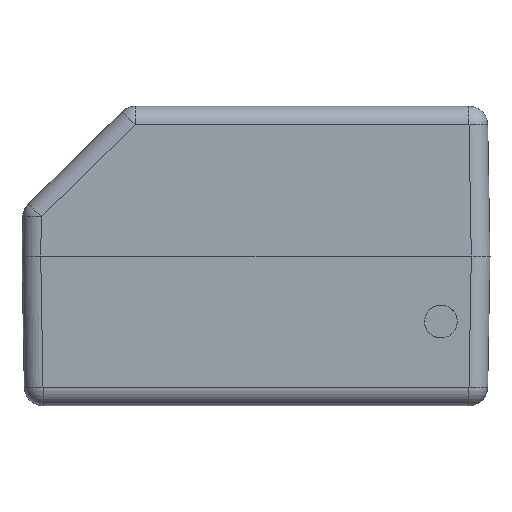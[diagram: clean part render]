
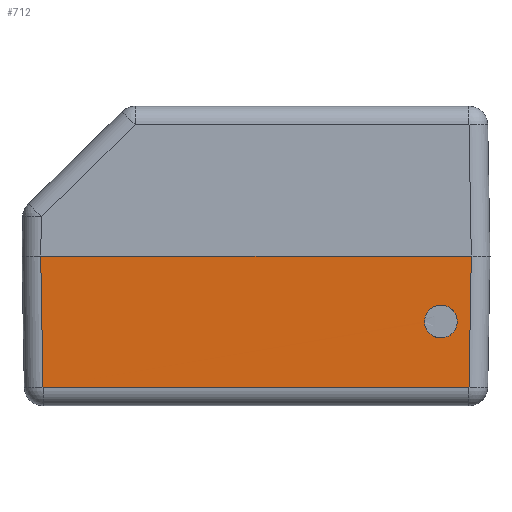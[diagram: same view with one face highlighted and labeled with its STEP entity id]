
A CAD part, front view. The second image highlights one B-rep face of the part: STEP entity #712.
In plain terms, the highlighted planar face has unit normal (0, -1, -0.018).
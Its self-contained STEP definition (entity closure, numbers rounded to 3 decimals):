
#483=FACE_BOUND('',#1008,.T.);
#484=FACE_BOUND('',#1009,.T.);
#712=ADVANCED_FACE('',(#483,#484),#829,.T.);
#829=PLANE('',#2377);
#1008=EDGE_LOOP('',(#1258,#1259,#1260,#1261));
#1009=EDGE_LOOP('',(#1262,#1263,#1264,#1265));
#1258=ORIENTED_EDGE('',*,*,#1912,.F.);
#1259=ORIENTED_EDGE('',*,*,#1878,.T.);
#1260=ORIENTED_EDGE('',*,*,#1911,.T.);
#1261=ORIENTED_EDGE('',*,*,#1913,.T.);
#1262=ORIENTED_EDGE('',*,*,#1882,.T.);
#1263=ORIENTED_EDGE('',*,*,#1881,.T.);
#1264=ORIENTED_EDGE('',*,*,#1880,.T.);
#1265=ORIENTED_EDGE('',*,*,#1883,.T.);
#1707=VERTEX_POINT('',#3233);
#1708=VERTEX_POINT('',#3240);
#1709=VERTEX_POINT('',#3251);
#1710=VERTEX_POINT('',#3252);
#1711=VERTEX_POINT('',#3261);
#1712=VERTEX_POINT('',#3270);
#1727=VERTEX_POINT('',#3408);
#1728=VERTEX_POINT('',#3418);
#1878=EDGE_CURVE('',#1708,#1707,#2133,.T.);
#1880=EDGE_CURVE('',#1709,#1710,#2134,.T.);
#1881=EDGE_CURVE('',#1711,#1709,#2135,.T.);
#1882=EDGE_CURVE('',#1712,#1711,#2136,.T.);
#1883=EDGE_CURVE('',#1710,#1712,#2137,.T.);
#1911=EDGE_CURVE('',#1707,#1727,#2155,.T.);
#1912=EDGE_CURVE('',#1708,#1728,#2156,.T.);
#1913=EDGE_CURVE('',#1727,#1728,#2157,.T.);
#2133=B_SPLINE_CURVE_WITH_KNOTS('',3,(#3236,#3237,#3238,#3239),
 .UNSPECIFIED.,.F.,.F.,(4,4),(0.,1.),.UNSPECIFIED.);
#2134=B_SPLINE_CURVE_WITH_KNOTS('',3,(#3243,#3244,#3245,#3246,#3247,#3248,
#3249,#3250),.UNSPECIFIED.,.F.,.F.,(4,2,2,4),(0.,0.5,0.75,
1.),.UNSPECIFIED.);
#2135=B_SPLINE_CURVE_WITH_KNOTS('',3,(#3253,#3254,#3255,#3256,#3257,#3258,
#3259,#3260),.UNSPECIFIED.,.F.,.F.,(4,2,2,4),(0.,0.25,0.5,
1.),.UNSPECIFIED.);
#2136=B_SPLINE_CURVE_WITH_KNOTS('',3,(#3262,#3263,#3264,#3265,#3266,#3267,
#3268,#3269),.UNSPECIFIED.,.F.,.F.,(4,2,2,4),(0.,0.5,0.75,
1.),.UNSPECIFIED.);
#2137=B_SPLINE_CURVE_WITH_KNOTS('',3,(#3271,#3272,#3273,#3274,#3275,#3276,
#3277,#3278,#3279,#3280,#3281),.UNSPECIFIED.,.F.,.F.,(4,2,1,2,2,4),(0.,
0.062,0.125,0.25,0.5,1.),
 .UNSPECIFIED.);
#2155=B_SPLINE_CURVE_WITH_KNOTS('',3,(#3409,#3410,#3411,#3412),
 .UNSPECIFIED.,.F.,.F.,(4,4),(0.,1.),.UNSPECIFIED.);
#2156=B_SPLINE_CURVE_WITH_KNOTS('',3,(#3414,#3415,#3416,#3417),
 .UNSPECIFIED.,.F.,.F.,(4,4),(0.,1.),.UNSPECIFIED.);
#2157=B_SPLINE_CURVE_WITH_KNOTS('',3,(#3419,#3420,#3421,#3422),
 .UNSPECIFIED.,.F.,.F.,(4,4),(0.,1.),.UNSPECIFIED.);
#2377=AXIS2_PLACEMENT_3D('',#3423,#2621,#2622);
#2621=DIRECTION('',(0.,-1.,-0.017));
#2622=DIRECTION('',(-1.,0.,0.));
#3233=CARTESIAN_POINT('',(22.755,-18.755,-16.035));
#3236=CARTESIAN_POINT('',(-22.755,-18.755,-16.035));
#3237=CARTESIAN_POINT('',(-7.585,-18.755,-16.035));
#3238=CARTESIAN_POINT('',(7.585,-18.755,-16.035));
#3239=CARTESIAN_POINT('',(22.755,-18.755,-16.035));
#3240=CARTESIAN_POINT('',(-22.755,-18.755,-16.035));
#3243=CARTESIAN_POINT('',(19.75,-18.847,-10.75));
#3244=CARTESIAN_POINT('',(19.304,-18.847,-10.75));
#3245=CARTESIAN_POINT('',(18.917,-18.85,-10.603));
#3246=CARTESIAN_POINT('',(18.424,-18.858,-10.162));
#3247=CARTESIAN_POINT('',(18.224,-18.862,-9.904));
#3248=CARTESIAN_POINT('',(18.018,-18.871,-9.378));
#3249=CARTESIAN_POINT('',(17.996,-18.874,-9.195));
#3250=CARTESIAN_POINT('',(18.,-18.878,-8.974));
#3251=CARTESIAN_POINT('',(19.752,-18.847,-10.75));
#3252=CARTESIAN_POINT('',(18.,-18.879,-8.975));
#3253=CARTESIAN_POINT('',(21.5,-18.878,-8.977));
#3254=CARTESIAN_POINT('',(21.504,-18.874,-9.222));
#3255=CARTESIAN_POINT('',(21.456,-18.87,-9.468));
#3256=CARTESIAN_POINT('',(21.245,-18.861,-9.949));
#3257=CARTESIAN_POINT('',(21.06,-18.857,-10.178));
#3258=CARTESIAN_POINT('',(20.575,-18.85,-10.606));
#3259=CARTESIAN_POINT('',(20.194,-18.847,-10.749));
#3260=CARTESIAN_POINT('',(19.753,-18.847,-10.75));
#3261=CARTESIAN_POINT('',(21.5,-18.878,-8.977));
#3262=CARTESIAN_POINT('',(19.718,-18.908,-7.249));
#3263=CARTESIAN_POINT('',(20.15,-18.909,-7.24));
#3264=CARTESIAN_POINT('',(20.56,-18.906,-7.398));
#3265=CARTESIAN_POINT('',(21.016,-18.899,-7.776));
#3266=CARTESIAN_POINT('',(21.186,-18.896,-7.968));
#3267=CARTESIAN_POINT('',(21.413,-18.888,-8.398));
#3268=CARTESIAN_POINT('',(21.495,-18.885,-8.606));
#3269=CARTESIAN_POINT('',(21.5,-18.878,-8.977));
#3270=CARTESIAN_POINT('',(19.718,-18.908,-7.25));
#3271=CARTESIAN_POINT('',(18.,-18.878,-8.974));
#3272=CARTESIAN_POINT('',(18.002,-18.881,-8.837));
#3273=CARTESIAN_POINT('',(18.011,-18.881,-8.789));
#3274=CARTESIAN_POINT('',(18.029,-18.884,-8.67));
#3275=CARTESIAN_POINT('',(18.064,-18.887,-8.496));
#3276=CARTESIAN_POINT('',(18.125,-18.889,-8.332));
#3277=CARTESIAN_POINT('',(18.279,-18.895,-8.02));
#3278=CARTESIAN_POINT('',(18.438,-18.898,-7.823));
#3279=CARTESIAN_POINT('',(18.917,-18.906,-7.4));
#3280=CARTESIAN_POINT('',(19.347,-18.908,-7.257));
#3281=CARTESIAN_POINT('',(19.718,-18.908,-7.249));
#3408=CARTESIAN_POINT('',(23.,-19.,-2.));
#3409=CARTESIAN_POINT('',(22.755,-18.755,-16.035));
#3410=CARTESIAN_POINT('',(22.837,-18.837,-11.357));
#3411=CARTESIAN_POINT('',(22.919,-18.918,-6.678));
#3412=CARTESIAN_POINT('',(23.,-19.,-2.));
#3414=CARTESIAN_POINT('',(-22.755,-18.755,-16.035));
#3415=CARTESIAN_POINT('',(-22.837,-18.837,-11.357));
#3416=CARTESIAN_POINT('',(-22.919,-18.918,-6.678));
#3417=CARTESIAN_POINT('',(-23.,-19.,-2.));
#3418=CARTESIAN_POINT('',(-23.,-19.,-2.));
#3419=CARTESIAN_POINT('',(23.,-19.,-2.));
#3420=CARTESIAN_POINT('',(7.667,-19.,-2.));
#3421=CARTESIAN_POINT('',(-7.667,-19.,-2.));
#3422=CARTESIAN_POINT('',(-23.,-19.,-2.));
#3423=CARTESIAN_POINT('',(-25.,-19.,-2.));
